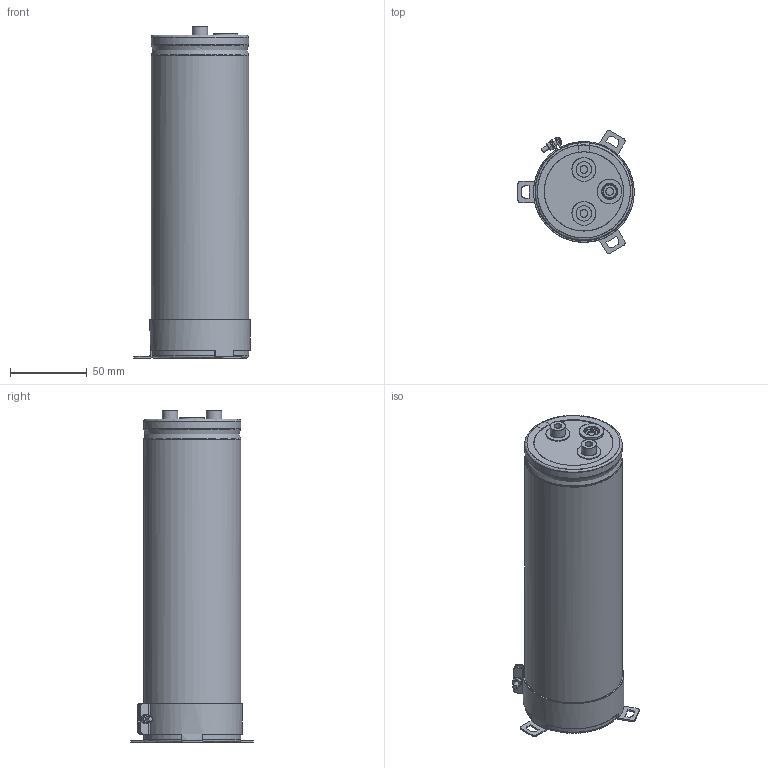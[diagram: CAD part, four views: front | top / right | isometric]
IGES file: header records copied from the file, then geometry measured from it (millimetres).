
Start section: JAMA-IS VERSION  1.0
Bounding box: 75.75 x 80.01 x 216 mm (x, y, z)
Surface area: 146377.1 mm2 (no closed solid volume)
Topology: 0 solids, 0 shells, 259 faces, 4436 edges, 4409 vertices
Faces by surface type: bspline 259
